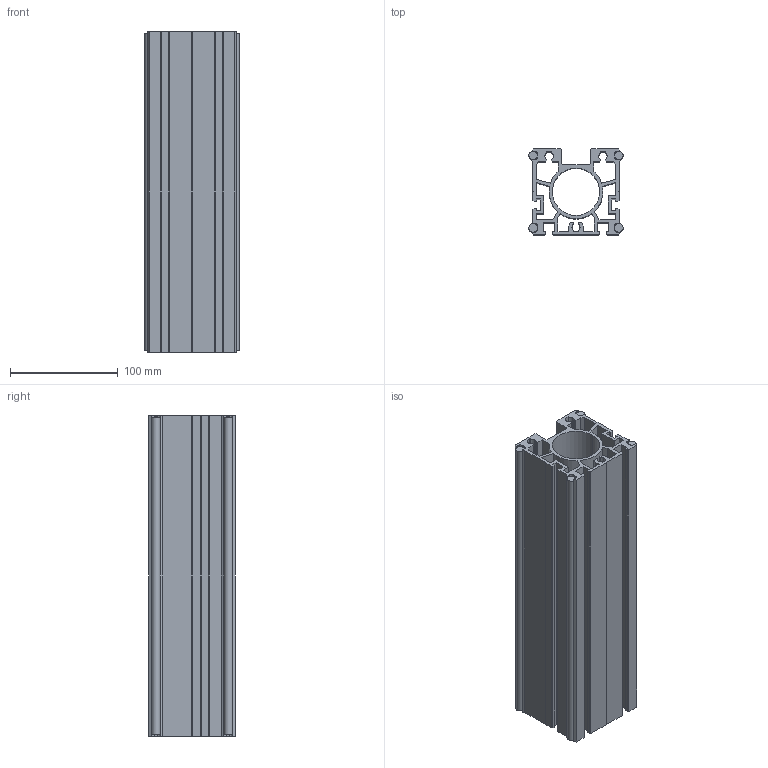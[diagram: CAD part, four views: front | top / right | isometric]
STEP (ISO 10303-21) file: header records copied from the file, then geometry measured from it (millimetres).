
FILE_DESCRIPTION (( 'STEP AP203' ), '1' );
FILE_NAME ('_-_MLF 4 298 mm lang.step', '2005-09-01T12:45:53', ( ' ' ), ( ' ' ), 'SwSTEP 2.0', 'SolidWorks 2005187', '' );
FILE_SCHEMA (( 'CONFIG_CONTROL_DESIGN' ));
Length unit declared in the file: millimetre
Products named in the file (1): _-_MLF 4  298 mm lang
Bounding box: 87.6 x 80 x 298 mm (x, y, z)
Volume: 686094.6 mm3; surface area: 372036.8 mm2
Topology: 1 solids, 1 shells, 248 faces, 762 edges, 500 vertices
Faces by surface type: plane 174, cylinder 74
Entity records: 8575 total; most frequent: ORIENTED_EDGE 1524, CARTESIAN_POINT 1511, DIRECTION 1408, EDGE_CURVE 762, VECTOR 614, LINE 614, VERTEX_POINT 500, AXIS2_PLACEMENT_3D 397
